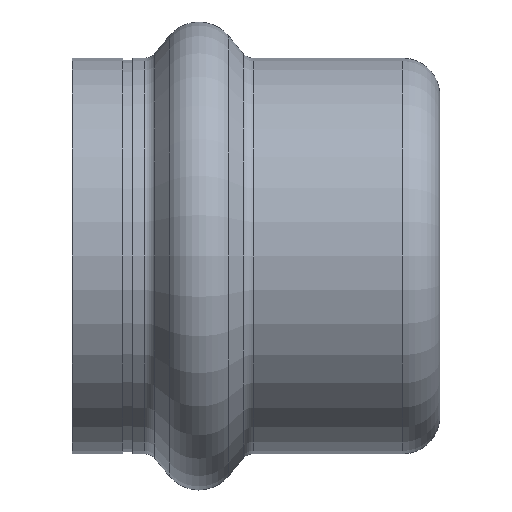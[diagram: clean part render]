
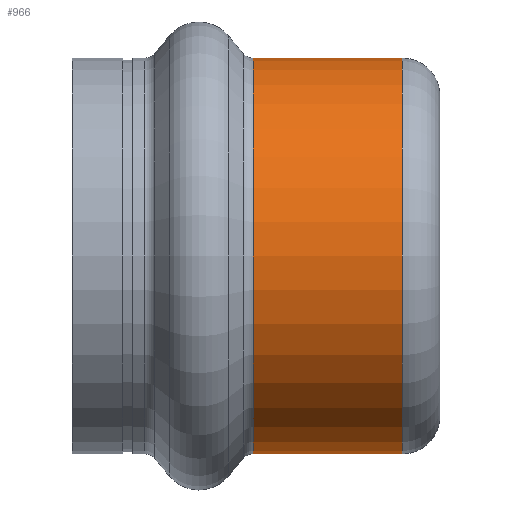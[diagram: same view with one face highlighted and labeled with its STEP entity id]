
A CAD part, front view. The second image highlights one B-rep face of the part: STEP entity #966.
In plain terms, the highlighted cylindrical face has radius 15.6 mm (diameter 31.2 mm), a partial arc.
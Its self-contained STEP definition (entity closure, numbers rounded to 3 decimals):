
#8 = EDGE_CURVE ( 'NONE', #197, #598, #800, .T. ) ;
#56 = EDGE_CURVE ( 'NONE', #598, #680, #295, .T. ) ;
#197 = VERTEX_POINT ( 'NONE', #250 ) ;
#200 = CARTESIAN_POINT ( 'NONE',  ( -7.298, 0., -15.6 ) ) ;
#207 = VECTOR ( 'NONE', #571, 1000. ) ;
#223 = EDGE_LOOP ( 'NONE', ( #637, #732, #380, #1338 ) ) ;
#239 = VECTOR ( 'NONE', #1013, 1000. ) ;
#250 = CARTESIAN_POINT ( 'NONE',  ( 29.55, 0., 15.6 ) ) ;
#271 = EDGE_CURVE ( 'NONE', #1018, #197, #706, .T. ) ;
#295 = CIRCLE ( 'NONE', #1267, 15.6 ) ;
#309 = CARTESIAN_POINT ( 'NONE',  ( 29.55, 0., -15.6 ) ) ;
#338 = CARTESIAN_POINT ( 'NONE',  ( 17.768, 0., 15.6 ) ) ;
#375 = LINE ( 'NONE', #200, #239 ) ;
#380 = ORIENTED_EDGE ( 'NONE', *, *, #8, .T. ) ;
#533 = CARTESIAN_POINT ( 'NONE',  ( -7.298, 0., 15.6 ) ) ;
#555 = CYLINDRICAL_SURFACE ( 'NONE', #649, 15.6 ) ;
#571 = DIRECTION ( 'NONE',  ( -1., 0., 0. ) ) ;
#598 = VERTEX_POINT ( 'NONE', #338 ) ;
#606 = EDGE_CURVE ( 'NONE', #1018, #680, #375, .T. ) ;
#628 = AXIS2_PLACEMENT_3D ( 'NONE', #1288, #1250, #1004 ) ;
#637 = ORIENTED_EDGE ( 'NONE', *, *, #606, .F. ) ;
#649 = AXIS2_PLACEMENT_3D ( 'NONE', #1191, #1216, #1177 ) ;
#680 = VERTEX_POINT ( 'NONE', #1344 ) ;
#706 = CIRCLE ( 'NONE', #628, 15.6 ) ;
#732 = ORIENTED_EDGE ( 'NONE', *, *, #271, .T. ) ;
#800 = LINE ( 'NONE', #533, #207 ) ;
#966 = ADVANCED_FACE ( 'NONE', ( #1032 ), #555, .T. ) ;
#973 = CARTESIAN_POINT ( 'NONE',  ( 17.768, 0., 0. ) ) ;
#997 = DIRECTION ( 'NONE',  ( 1., 0., 0. ) ) ;
#1004 = DIRECTION ( 'NONE',  ( 0., 0., 1. ) ) ;
#1013 = DIRECTION ( 'NONE',  ( -1., 0., 0. ) ) ;
#1018 = VERTEX_POINT ( 'NONE', #309 ) ;
#1020 = DIRECTION ( 'NONE',  ( 0., 0., -1. ) ) ;
#1032 = FACE_OUTER_BOUND ( 'NONE', #223, .T. ) ;
#1177 = DIRECTION ( 'NONE',  ( 0., 0., 1. ) ) ;
#1191 = CARTESIAN_POINT ( 'NONE',  ( -7.298, 0., 0. ) ) ;
#1216 = DIRECTION ( 'NONE',  ( -1., 0., 0. ) ) ;
#1250 = DIRECTION ( 'NONE',  ( -1., 0., 0. ) ) ;
#1267 = AXIS2_PLACEMENT_3D ( 'NONE', #973, #997, #1020 ) ;
#1288 = CARTESIAN_POINT ( 'NONE',  ( 29.55, 0., 0. ) ) ;
#1338 = ORIENTED_EDGE ( 'NONE', *, *, #56, .T. ) ;
#1344 = CARTESIAN_POINT ( 'NONE',  ( 17.768, 0., -15.6 ) ) ;
